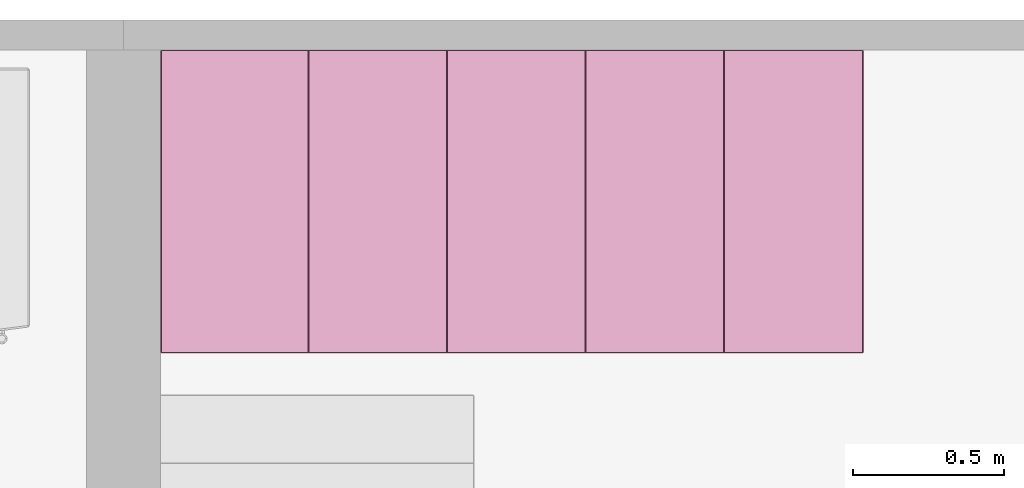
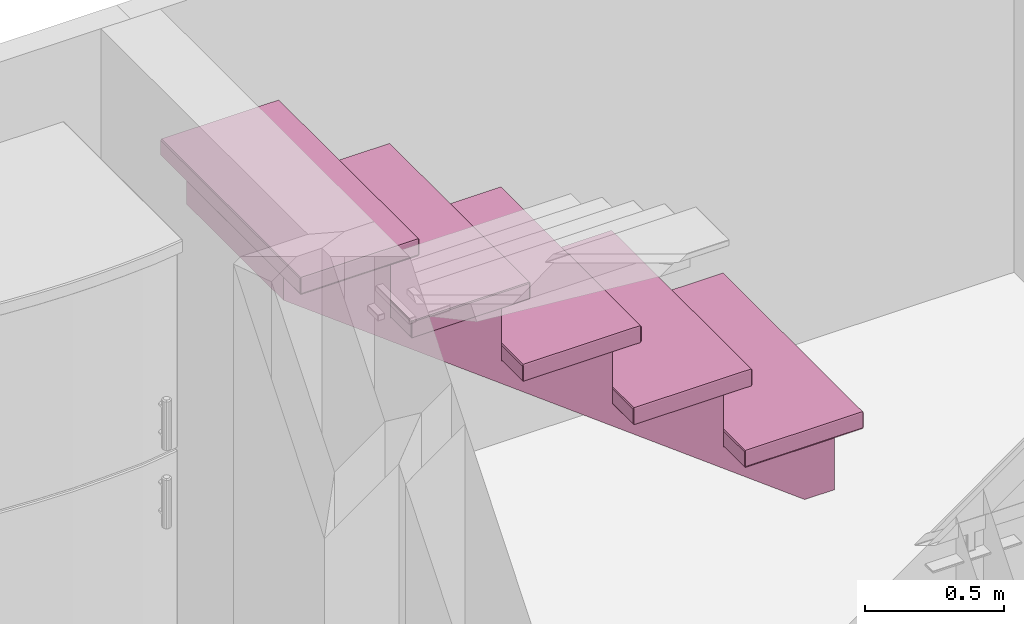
# One storey, part 7 of 8: 1 furniture element.
"""IFC4 building model written with IfcOpenShell, lengths in metres."""

from ifc_helpers import new_model, si_unit, direction, frame, origin_with_axes, place, context, project, spatial, polygons, type_object, element, save


model = new_model("IFC4")

# Units and contexts
model_context = context("Model", 3, precision=1e-05, world=origin_with_axes(), true_north=direction((-0.077, 0.997, 0.0)))
ifc_project = project(units=[si_unit("AREAUNIT", "SQUARE_METRE"), si_unit("LENGTHUNIT", "METRE")], contexts=[model_context])

# Site, building, storey, space
site_placement = place(None, origin_with_axes())
site = spatial("IfcSite", under=ifc_project, at=site_placement, Name="Site", CompositionType="ELEMENT")
building_placement = place(site_placement, origin_with_axes())
building = spatial("IfcBuilding", under=site, at=building_placement, Name="Building", CompositionType="ELEMENT")
storey_placement = place(building_placement, frame((0.0, 0.0, 0.0500000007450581), z_axis=(0.0, 0.0, 1.0), x_axis=(1.0, 0.0, 0.0)))
storey = spatial("IfcBuildingStorey", under=building, at=storey_placement, Name="Story 0", CompositionType="ELEMENT", Elevation=0.0500000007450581)
space_placement = place(storey_placement, frame((1.57275010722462, 0.239487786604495, 0.0), z_axis=(0.0, 0.0, 1.0), x_axis=(1.0, 0.0, 0.0)))
space = spatial("IfcSpace", under=storey, at=space_placement, Name="002", CompositionType="ELEMENT")

# Furniture
furniture_type = type_object("IfcFurnitureType", Name="e87a7f0f-9206-45dd-8d22-c4ba98a7309b", AssemblyPlace="NOTDEFINED", PredefinedType="USERDEFINED")
furniture_placement = place(space_placement, frame((1.16524194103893, 1.03045640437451, 0.910993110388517), z_axis=(0.0, 0.0, 1.00000000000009), x_axis=(1.00000011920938, 0.0, 0.0)))
element("IfcFurniture", 1, at=furniture_placement, inside=space, type_object=furniture_type, Name="STAIRS", ObjectType="STAIRS", PredefinedType="USERDEFINED", context=model_context, shape_type="Tessellation", body=[
    polygons([(1.1661, 0.5006, -0.4953), (1.1661, -0.5006, -0.4953), (1.1661, 0.5006, -0.5598), (1.1661, -0.5006, -0.5598), (1.1661, 0.5006, -0.5598), (1.1661, -0.5006, -0.4953), (1.1628, -0.5024, -0.4953), (0.6767, -0.5024, -0.4953), (1.1628, -0.5024, -0.5598), (0.6767, -0.5024, -0.5598), (1.1628, -0.5024, -0.5598), (0.6767, -0.5024, -0.4953), (0.6734, -0.5006, -0.4953), (0.6734, 0.5006, -0.4953), (0.6734, -0.5006, -0.5598), (0.6734, 0.5006, -0.5598), (0.6734, -0.5006, -0.5598), (0.6734, 0.5006, -0.4953), (0.6767, 0.5024, -0.4953), (1.1628, 0.5024, -0.4953), (0.6767, 0.5024, -0.5598), (1.1628, 0.5024, -0.5598), (0.6767, 0.5024, -0.5598), (1.1628, 0.5024, -0.4953), (1.1628, -0.5006, -0.5647), (0.6767, -0.5006, -0.5647), (1.1628, 0.5006, -0.5647), (0.6767, 0.5006, -0.5647), (1.1628, 0.5006, -0.5647), (0.6767, -0.5006, -0.5647), (1.1628, -0.5006, -0.4903), (1.1628, 0.5006, -0.4903), (0.6767, -0.5006, -0.4903), (0.6767, 0.5006, -0.4903), (0.6767, -0.5006, -0.4903), (1.1628, 0.5006, -0.4903), (1.1628, 0.5024, -0.5598), (1.1661, 0.5006, -0.5598), (1.1628, 0.5006, -0.5647), (1.1628, -0.5024, -0.5598), (1.1628, -0.5006, -0.5647), (1.1661, -0.5006, -0.5598), (0.6734, -0.5006, -0.5598), (0.6767, -0.5006, -0.5647), (0.6767, -0.5024, -0.5598), (0.6734, 0.5006, -0.5598), (0.6767, 0.5024, -0.5598), (0.6767, 0.5006, -0.5647), (1.1628, 0.5006, -0.4903), (1.1661, 0.5006, -0.4953), (1.1628, 0.5024, -0.4953), (1.1628, -0.5006, -0.4903), (1.1628, -0.5024, -0.4953), (1.1661, -0.5006, -0.4953), (0.6767, -0.5006, -0.4903), (0.6734, -0.5006, -0.4953), (0.6767, -0.5024, -0.4953), (0.6767, 0.5006, -0.4903), (0.6767, 0.5024, -0.4953), (0.6734, 0.5006, -0.4953), (1.1628, 0.5006, -0.5647), (1.1661, 0.5006, -0.5598), (1.1628, -0.5006, -0.5647), (1.1661, -0.5006, -0.5598), (1.1628, -0.5006, -0.5647), (1.1661, 0.5006, -0.5598), (1.1628, -0.5024, -0.5598), (1.1661, -0.5006, -0.5598), (1.1628, -0.5024, -0.4953), (1.1661, -0.5006, -0.4953), (1.1628, -0.5024, -0.4953), (1.1661, -0.5006, -0.5598), (1.1628, -0.5006, -0.4903), (1.1661, -0.5006, -0.4953), (1.1628, 0.5006, -0.4903), (1.1661, 0.5006, -0.4953), (1.1628, 0.5006, -0.4903), (1.1661, -0.5006, -0.4953), (1.1628, 0.5024, -0.4953), (1.1661, 0.5006, -0.4953), (1.1628, 0.5024, -0.5598), (1.1661, 0.5006, -0.5598), (1.1628, 0.5024, -0.5598), (1.1661, 0.5006, -0.4953), (1.1628, -0.5006, -0.5647), (1.1628, -0.5024, -0.5598), (0.6767, -0.5006, -0.5647), (0.6767, -0.5024, -0.5598), (0.6767, -0.5006, -0.5647), (1.1628, -0.5024, -0.5598), (0.6734, -0.5006, -0.5598), (0.6767, -0.5024, -0.5598), (0.6734, -0.5006, -0.4953), (0.6767, -0.5024, -0.4953), (0.6734, -0.5006, -0.4953), (0.6767, -0.5024, -0.5598), (0.6767, -0.5006, -0.4903), (0.6767, -0.5024, -0.4953), (1.1628, -0.5006, -0.4903), (1.1628, -0.5024, -0.4953), (1.1628, -0.5006, -0.4903), (0.6767, -0.5024, -0.4953), (0.6767, -0.5006, -0.5647), (0.6734, -0.5006, -0.5598), (0.6767, 0.5006, -0.5647), (0.6734, 0.5006, -0.5598), (0.6767, 0.5006, -0.5647), (0.6734, -0.5006, -0.5598), (0.6767, 0.5024, -0.5598), (0.6734, 0.5006, -0.5598), (0.6767, 0.5024, -0.4953), (0.6734, 0.5006, -0.4953), (0.6767, 0.5024, -0.4953), (0.6734, 0.5006, -0.5598), (0.6767, 0.5006, -0.4903), (0.6734, 0.5006, -0.4953), (0.6767, -0.5006, -0.4903), (0.6734, -0.5006, -0.4953), (0.6767, -0.5006, -0.4903), (0.6734, 0.5006, -0.4953), (0.6767, 0.5006, -0.5647), (0.6767, 0.5024, -0.5598), (1.1628, 0.5006, -0.5647), (1.1628, 0.5024, -0.5598), (1.1628, 0.5006, -0.5647), (0.6767, 0.5024, -0.5598), (1.1628, 0.5006, -0.4903), (1.1628, 0.5024, -0.4953), (0.6767, 0.5006, -0.4903), (0.6767, 0.5024, -0.4953), (0.6767, 0.5006, -0.4903), (1.1628, 0.5024, -0.4953), (0.705, 0.5006, -0.147), (0.705, -0.5006, -0.147), (0.705, 0.5006, -0.2114), (0.705, -0.5006, -0.2114), (0.705, 0.5006, -0.2114), (0.705, -0.5006, -0.147), (0.7018, -0.5024, -0.147), (0.2156, -0.5024, -0.147), (0.7018, -0.5024, -0.2114), (0.2156, -0.5024, -0.2114), (0.7018, -0.5024, -0.2114), (0.2156, -0.5024, -0.147), (0.2124, -0.5006, -0.147), (0.2124, 0.5006, -0.147), (0.2124, -0.5006, -0.2114), (0.2124, 0.5006, -0.2114), (0.2124, -0.5006, -0.2114), (0.2124, 0.5006, -0.147), (0.2156, 0.5024, -0.147), (0.7018, 0.5024, -0.147), (0.2156, 0.5024, -0.2114), (0.7018, 0.5024, -0.2114), (0.2156, 0.5024, -0.2114), (0.7018, 0.5024, -0.147), (0.7018, -0.5006, -0.2164), (0.2156, -0.5006, -0.2164), (0.7018, 0.5006, -0.2164), (0.2156, 0.5006, -0.2164), (0.7018, 0.5006, -0.2164), (0.2156, -0.5006, -0.2164), (0.7018, -0.5006, -0.142), (0.7018, 0.5006, -0.142), (0.2156, -0.5006, -0.142), (0.2156, 0.5006, -0.142), (0.2156, -0.5006, -0.142), (0.7018, 0.5006, -0.142), (0.7018, 0.5024, -0.2114), (0.705, 0.5006, -0.2114), (0.7018, 0.5006, -0.2164), (0.7018, -0.5024, -0.2114), (0.7018, -0.5006, -0.2164), (0.705, -0.5006, -0.2114), (0.2124, -0.5006, -0.2114), (0.2156, -0.5006, -0.2164), (0.2156, -0.5024, -0.2114), (0.2124, 0.5006, -0.2114), (0.2156, 0.5024, -0.2114), (0.2156, 0.5006, -0.2164), (0.7018, 0.5006, -0.142), (0.705, 0.5006, -0.147), (0.7018, 0.5024, -0.147), (0.7018, -0.5006, -0.142), (0.7018, -0.5024, -0.147), (0.705, -0.5006, -0.147), (0.2156, -0.5006, -0.142), (0.2124, -0.5006, -0.147), (0.2156, -0.5024, -0.147), (0.2156, 0.5006, -0.142), (0.2156, 0.5024, -0.147), (0.2124, 0.5006, -0.147), (0.7018, 0.5006, -0.2164), (0.705, 0.5006, -0.2114), (0.7018, -0.5006, -0.2164), (0.705, -0.5006, -0.2114), (0.7018, -0.5006, -0.2164), (0.705, 0.5006, -0.2114), (0.7018, -0.5024, -0.2114), (0.705, -0.5006, -0.2114), (0.7018, -0.5024, -0.147), (0.705, -0.5006, -0.147), (0.7018, -0.5024, -0.147), (0.705, -0.5006, -0.2114), (0.7018, -0.5006, -0.142), (0.705, -0.5006, -0.147), (0.7018, 0.5006, -0.142), (0.705, 0.5006, -0.147), (0.7018, 0.5006, -0.142), (0.705, -0.5006, -0.147), (0.7018, 0.5024, -0.147), (0.705, 0.5006, -0.147), (0.7018, 0.5024, -0.2114), (0.705, 0.5006, -0.2114), (0.7018, 0.5024, -0.2114), (0.705, 0.5006, -0.147), (0.7018, -0.5006, -0.2164), (0.7018, -0.5024, -0.2114), (0.2156, -0.5006, -0.2164), (0.2156, -0.5024, -0.2114), (0.2156, -0.5006, -0.2164), (0.7018, -0.5024, -0.2114), (0.2124, -0.5006, -0.2114), (0.2156, -0.5024, -0.2114), (0.2124, -0.5006, -0.147), (0.2156, -0.5024, -0.147), (0.2124, -0.5006, -0.147), (0.2156, -0.5024, -0.2114), (0.2156, -0.5006, -0.142), (0.2156, -0.5024, -0.147), (0.7018, -0.5006, -0.142), (0.7018, -0.5024, -0.147), (0.7018, -0.5006, -0.142), (0.2156, -0.5024, -0.147), (0.2156, -0.5006, -0.2164), (0.2124, -0.5006, -0.2114), (0.2156, 0.5006, -0.2164), (0.2124, 0.5006, -0.2114), (0.2156, 0.5006, -0.2164), (0.2124, -0.5006, -0.2114), (0.2156, 0.5024, -0.2114), (0.2124, 0.5006, -0.2114), (0.2156, 0.5024, -0.147), (0.2124, 0.5006, -0.147), (0.2156, 0.5024, -0.147), (0.2124, 0.5006, -0.2114), (0.2156, 0.5006, -0.142), (0.2124, 0.5006, -0.147), (0.2156, -0.5006, -0.142), (0.2124, -0.5006, -0.147), (0.2156, -0.5006, -0.142), (0.2124, 0.5006, -0.147), (0.2156, 0.5006, -0.2164), (0.2156, 0.5024, -0.2114), (0.7018, 0.5006, -0.2164), (0.7018, 0.5024, -0.2114), (0.7018, 0.5006, -0.2164), (0.2156, 0.5024, -0.2114), (0.7018, 0.5006, -0.142), (0.7018, 0.5024, -0.147), (0.2156, 0.5006, -0.142), (0.2156, 0.5024, -0.147), (0.2156, 0.5006, -0.142), (0.7018, 0.5024, -0.147), (0.2462, 0.5006, 0.2036), (0.2462, -0.5006, 0.2036), (0.2462, 0.5006, 0.1392), (0.2462, -0.5006, 0.1392), (0.2462, 0.5006, 0.1392), (0.2462, -0.5006, 0.2036), (0.243, -0.5024, 0.2036), (-0.2431, -0.5024, 0.2036), (0.243, -0.5024, 0.1392), (-0.2431, -0.5024, 0.1392), (0.243, -0.5024, 0.1392), (-0.2431, -0.5024, 0.2036), (-0.2464, -0.5006, 0.2036), (-0.2464, 0.5006, 0.2036), (-0.2464, -0.5006, 0.1392), (-0.2464, 0.5006, 0.1392), (-0.2464, -0.5006, 0.1392), (-0.2464, 0.5006, 0.2036), (-0.2431, 0.5024, 0.2036), (0.243, 0.5024, 0.2036), (-0.2431, 0.5024, 0.1392), (0.243, 0.5024, 0.1392), (-0.2431, 0.5024, 0.1392), (0.243, 0.5024, 0.2036), (0.243, -0.5006, 0.1342), (-0.2431, -0.5006, 0.1342), (0.243, 0.5006, 0.1342), (-0.2431, 0.5006, 0.1342), (0.243, 0.5006, 0.1342), (-0.2431, -0.5006, 0.1342), (0.243, -0.5006, 0.2086), (0.243, 0.5006, 0.2086), (-0.2431, -0.5006, 0.2086), (-0.2431, 0.5006, 0.2086), (-0.2431, -0.5006, 0.2086), (0.243, 0.5006, 0.2086), (0.243, 0.5024, 0.1392), (0.2462, 0.5006, 0.1392), (0.243, 0.5006, 0.1342), (0.243, -0.5024, 0.1392), (0.243, -0.5006, 0.1342), (0.2462, -0.5006, 0.1392), (-0.2464, -0.5006, 0.1392), (-0.2431, -0.5006, 0.1342), (-0.2431, -0.5024, 0.1392), (-0.2464, 0.5006, 0.1392), (-0.2431, 0.5024, 0.1392), (-0.2431, 0.5006, 0.1342), (0.243, 0.5006, 0.2086), (0.2462, 0.5006, 0.2036), (0.243, 0.5024, 0.2036), (0.243, -0.5006, 0.2086), (0.243, -0.5024, 0.2036), (0.2462, -0.5006, 0.2036), (-0.2431, -0.5006, 0.2086), (-0.2464, -0.5006, 0.2036), (-0.2431, -0.5024, 0.2036), (-0.2431, 0.5006, 0.2086), (-0.2431, 0.5024, 0.2036), (-0.2464, 0.5006, 0.2036), (0.243, 0.5006, 0.1342), (0.2462, 0.5006, 0.1392), (0.243, -0.5006, 0.1342), (0.2462, -0.5006, 0.1392), (0.243, -0.5006, 0.1342), (0.2462, 0.5006, 0.1392), (0.243, -0.5024, 0.1392), (0.2462, -0.5006, 0.1392), (0.243, -0.5024, 0.2036), (0.2462, -0.5006, 0.2036), (0.243, -0.5024, 0.2036), (0.2462, -0.5006, 0.1392), (0.243, -0.5006, 0.2086), (0.2462, -0.5006, 0.2036), (0.243, 0.5006, 0.2086), (0.2462, 0.5006, 0.2036), (0.243, 0.5006, 0.2086), (0.2462, -0.5006, 0.2036), (0.243, 0.5024, 0.2036), (0.2462, 0.5006, 0.2036), (0.243, 0.5024, 0.1392), (0.2462, 0.5006, 0.1392), (0.243, 0.5024, 0.1392), (0.2462, 0.5006, 0.2036), (0.243, -0.5006, 0.1342), (0.243, -0.5024, 0.1392), (-0.2431, -0.5006, 0.1342), (-0.2431, -0.5024, 0.1392), (-0.2431, -0.5006, 0.1342), (0.243, -0.5024, 0.1392), (-0.2464, -0.5006, 0.1392), (-0.2431, -0.5024, 0.1392), (-0.2464, -0.5006, 0.2036), (-0.2431, -0.5024, 0.2036), (-0.2464, -0.5006, 0.2036), (-0.2431, -0.5024, 0.1392), (-0.2431, -0.5006, 0.2086), (-0.2431, -0.5024, 0.2036), (0.243, -0.5006, 0.2086), (0.243, -0.5024, 0.2036), (0.243, -0.5006, 0.2086), (-0.2431, -0.5024, 0.2036), (-0.2431, -0.5006, 0.1342), (-0.2464, -0.5006, 0.1392), (-0.2431, 0.5006, 0.1342), (-0.2464, 0.5006, 0.1392), (-0.2431, 0.5006, 0.1342), (-0.2464, -0.5006, 0.1392), (-0.2431, 0.5024, 0.1392), (-0.2464, 0.5006, 0.1392), (-0.2431, 0.5024, 0.2036), (-0.2464, 0.5006, 0.2036), (-0.2431, 0.5024, 0.2036), (-0.2464, 0.5006, 0.1392), (-0.2431, 0.5006, 0.2086), (-0.2464, 0.5006, 0.2036), (-0.2431, -0.5006, 0.2086), (-0.2464, -0.5006, 0.2036), (-0.2431, -0.5006, 0.2086), (-0.2464, 0.5006, 0.2036), (-0.2431, 0.5006, 0.1342), (-0.2431, 0.5024, 0.1392), (0.243, 0.5006, 0.1342), (0.243, 0.5024, 0.1392), (0.243, 0.5006, 0.1342), (-0.2431, 0.5024, 0.1392), (0.243, 0.5006, 0.2086), (0.243, 0.5024, 0.2036), (-0.2431, 0.5006, 0.2086), (-0.2431, 0.5024, 0.2036), (-0.2431, 0.5006, 0.2086), (0.243, 0.5024, 0.2036), (-0.2144, 0.5006, 0.5554), (-0.2144, -0.5006, 0.5554), (-0.2144, 0.5006, 0.4909), (-0.2144, -0.5006, 0.4909), (-0.2144, 0.5006, 0.4909), (-0.2144, -0.5006, 0.5554), (-0.2177, -0.5024, 0.5554), (-0.7038, -0.5024, 0.5554), (-0.2177, -0.5024, 0.4909), (-0.7038, -0.5024, 0.4909), (-0.2177, -0.5024, 0.4909), (-0.7038, -0.5024, 0.5554), (-0.7071, -0.5006, 0.5554), (-0.7071, 0.5006, 0.5554), (-0.7071, -0.5006, 0.4909), (-0.7071, 0.5006, 0.4909), (-0.7071, -0.5006, 0.4909), (-0.7071, 0.5006, 0.5554), (-0.7038, 0.5024, 0.5554), (-0.2177, 0.5024, 0.5554), (-0.7038, 0.5024, 0.4909), (-0.2177, 0.5024, 0.4909), (-0.7038, 0.5024, 0.4909), (-0.2177, 0.5024, 0.5554), (-0.2177, -0.5006, 0.4859), (-0.7038, -0.5006, 0.4859), (-0.2177, 0.5006, 0.4859), (-0.7038, 0.5006, 0.4859), (-0.2177, 0.5006, 0.4859), (-0.7038, -0.5006, 0.4859), (-0.2177, -0.5006, 0.5603), (-0.2177, 0.5006, 0.5603), (-0.7038, -0.5006, 0.5603), (-0.7038, 0.5006, 0.5603), (-0.7038, -0.5006, 0.5603), (-0.2177, 0.5006, 0.5603), (-0.2177, 0.5024, 0.4909), (-0.2144, 0.5006, 0.4909), (-0.2177, 0.5006, 0.4859), (-0.2177, -0.5024, 0.4909), (-0.2177, -0.5006, 0.4859), (-0.2144, -0.5006, 0.4909), (-0.7071, -0.5006, 0.4909), (-0.7038, -0.5006, 0.4859), (-0.7038, -0.5024, 0.4909), (-0.7071, 0.5006, 0.4909), (-0.7038, 0.5024, 0.4909), (-0.7038, 0.5006, 0.4859), (-0.2177, 0.5006, 0.5603), (-0.2144, 0.5006, 0.5554), (-0.2177, 0.5024, 0.5554), (-0.2177, -0.5006, 0.5603), (-0.2177, -0.5024, 0.5554), (-0.2144, -0.5006, 0.5554), (-0.7038, -0.5006, 0.5603), (-0.7071, -0.5006, 0.5554), (-0.7038, -0.5024, 0.5554), (-0.7038, 0.5006, 0.5603), (-0.7038, 0.5024, 0.5554), (-0.7071, 0.5006, 0.5554), (-0.2177, 0.5006, 0.4859), (-0.2144, 0.5006, 0.4909), (-0.2177, -0.5006, 0.4859), (-0.2144, -0.5006, 0.4909), (-0.2177, -0.5006, 0.4859), (-0.2144, 0.5006, 0.4909), (-0.2177, -0.5024, 0.4909), (-0.2144, -0.5006, 0.4909), (-0.2177, -0.5024, 0.5554), (-0.2144, -0.5006, 0.5554), (-0.2177, -0.5024, 0.5554), (-0.2144, -0.5006, 0.4909), (-0.2177, -0.5006, 0.5603), (-0.2144, -0.5006, 0.5554), (-0.2177, 0.5006, 0.5603), (-0.2144, 0.5006, 0.5554), (-0.2177, 0.5006, 0.5603), (-0.2144, -0.5006, 0.5554), (-0.2177, 0.5024, 0.5554), (-0.2144, 0.5006, 0.5554), (-0.2177, 0.5024, 0.4909), (-0.2144, 0.5006, 0.4909), (-0.2177, 0.5024, 0.4909), (-0.2144, 0.5006, 0.5554), (-0.2177, -0.5006, 0.4859), (-0.2177, -0.5024, 0.4909), (-0.7038, -0.5006, 0.4859), (-0.7038, -0.5024, 0.4909), (-0.7038, -0.5006, 0.4859), (-0.2177, -0.5024, 0.4909), (-0.7071, -0.5006, 0.4909), (-0.7038, -0.5024, 0.4909), (-0.7071, -0.5006, 0.5554), (-0.7038, -0.5024, 0.5554), (-0.7071, -0.5006, 0.5554), (-0.7038, -0.5024, 0.4909), (-0.7038, -0.5006, 0.5603), (-0.7038, -0.5024, 0.5554), (-0.2177, -0.5006, 0.5603), (-0.2177, -0.5024, 0.5554), (-0.2177, -0.5006, 0.5603), (-0.7038, -0.5024, 0.5554), (-0.7038, -0.5006, 0.4859), (-0.7071, -0.5006, 0.4909), (-0.7038, 0.5006, 0.4859), (-0.7071, 0.5006, 0.4909), (-0.7038, 0.5006, 0.4859), (-0.7071, -0.5006, 0.4909), (-0.7038, 0.5024, 0.4909), (-0.7071, 0.5006, 0.4909), (-0.7038, 0.5024, 0.5554), (-0.7071, 0.5006, 0.5554), (-0.7038, 0.5024, 0.5554), (-0.7071, 0.5006, 0.4909), (-0.7038, 0.5006, 0.5603), (-0.7071, 0.5006, 0.5554), (-0.7038, -0.5006, 0.5603), (-0.7071, -0.5006, 0.5554), (-0.7038, -0.5006, 0.5603), (-0.7071, 0.5006, 0.5554), (-0.7038, 0.5006, 0.4859), (-0.7038, 0.5024, 0.4909), (-0.2177, 0.5006, 0.4859), (-0.2177, 0.5024, 0.4909), (-0.2177, 0.5006, 0.4859), (-0.7038, 0.5024, 0.4909), (-0.2177, 0.5006, 0.5603), (-0.2177, 0.5024, 0.5554), (-0.7038, 0.5006, 0.5603), (-0.7038, 0.5024, 0.5554), (-0.7038, 0.5006, 0.5603), (-0.2177, 0.5024, 0.5554), (-0.6734, 0.5006, 0.906), (-0.6734, -0.5006, 0.906), (-0.6734, 0.5006, 0.8415), (-0.6734, -0.5006, 0.8415), (-0.6734, 0.5006, 0.8415), (-0.6734, -0.5006, 0.906), (-0.6767, -0.5024, 0.906), (-1.1628, -0.5024, 0.906), (-0.6767, -0.5024, 0.8415), (-1.1628, -0.5024, 0.8415), (-0.6767, -0.5024, 0.8415), (-1.1628, -0.5024, 0.906), (-1.1661, -0.5006, 0.906), (-1.1661, 0.5006, 0.906), (-1.1661, -0.5006, 0.8415), (-1.1661, 0.5006, 0.8415), (-1.1661, -0.5006, 0.8415), (-1.1661, 0.5006, 0.906), (-1.1628, 0.5024, 0.906), (-0.6767, 0.5024, 0.906), (-1.1628, 0.5024, 0.8415), (-0.6767, 0.5024, 0.8415), (-1.1628, 0.5024, 0.8415), (-0.6767, 0.5024, 0.906), (-0.6767, -0.5006, 0.8366), (-1.1628, -0.5006, 0.8366), (-0.6767, 0.5006, 0.8366), (-1.1628, 0.5006, 0.8366), (-0.6767, 0.5006, 0.8366), (-1.1628, -0.5006, 0.8366), (-0.6767, -0.5006, 0.911), (-0.6767, 0.5006, 0.911), (-1.1628, -0.5006, 0.911), (-1.1628, 0.5006, 0.911), (-1.1628, -0.5006, 0.911), (-0.6767, 0.5006, 0.911), (-0.6767, 0.5024, 0.8415), (-0.6734, 0.5006, 0.8415), (-0.6767, 0.5006, 0.8366), (-0.6767, -0.5024, 0.8415), (-0.6767, -0.5006, 0.8366), (-0.6734, -0.5006, 0.8415), (-1.1661, -0.5006, 0.8415), (-1.1628, -0.5006, 0.8366), (-1.1628, -0.5024, 0.8415), (-1.1661, 0.5006, 0.8415), (-1.1628, 0.5024, 0.8415), (-1.1628, 0.5006, 0.8366), (-0.6767, 0.5006, 0.911), (-0.6734, 0.5006, 0.906), (-0.6767, 0.5024, 0.906), (-0.6767, -0.5006, 0.911), (-0.6767, -0.5024, 0.906), (-0.6734, -0.5006, 0.906), (-1.1628, -0.5006, 0.911), (-1.1661, -0.5006, 0.906), (-1.1628, -0.5024, 0.906), (-1.1628, 0.5006, 0.911), (-1.1628, 0.5024, 0.906), (-1.1661, 0.5006, 0.906), (-0.6767, 0.5006, 0.8366), (-0.6734, 0.5006, 0.8415), (-0.6767, -0.5006, 0.8366), (-0.6734, -0.5006, 0.8415), (-0.6767, -0.5006, 0.8366), (-0.6734, 0.5006, 0.8415), (-0.6767, -0.5024, 0.8415), (-0.6734, -0.5006, 0.8415), (-0.6767, -0.5024, 0.906), (-0.6734, -0.5006, 0.906), (-0.6767, -0.5024, 0.906), (-0.6734, -0.5006, 0.8415), (-0.6767, -0.5006, 0.911), (-0.6734, -0.5006, 0.906), (-0.6767, 0.5006, 0.911), (-0.6734, 0.5006, 0.906), (-0.6767, 0.5006, 0.911), (-0.6734, -0.5006, 0.906), (-0.6767, 0.5024, 0.906), (-0.6734, 0.5006, 0.906), (-0.6767, 0.5024, 0.8415), (-0.6734, 0.5006, 0.8415), (-0.6767, 0.5024, 0.8415), (-0.6734, 0.5006, 0.906), (-0.6767, -0.5006, 0.8366), (-0.6767, -0.5024, 0.8415), (-1.1628, -0.5006, 0.8366), (-1.1628, -0.5024, 0.8415), (-1.1628, -0.5006, 0.8366), (-0.6767, -0.5024, 0.8415), (-1.1661, -0.5006, 0.8415), (-1.1628, -0.5024, 0.8415), (-1.1661, -0.5006, 0.906), (-1.1628, -0.5024, 0.906), (-1.1661, -0.5006, 0.906), (-1.1628, -0.5024, 0.8415), (-1.1628, -0.5006, 0.911), (-1.1628, -0.5024, 0.906), (-0.6767, -0.5006, 0.911), (-0.6767, -0.5024, 0.906), (-0.6767, -0.5006, 0.911), (-1.1628, -0.5024, 0.906), (-1.1628, -0.5006, 0.8366), (-1.1661, -0.5006, 0.8415), (-1.1628, 0.5006, 0.8366), (-1.1661, 0.5006, 0.8415), (-1.1628, 0.5006, 0.8366), (-1.1661, -0.5006, 0.8415), (-1.1628, 0.5024, 0.8415), (-1.1661, 0.5006, 0.8415), (-1.1628, 0.5024, 0.906), (-1.1661, 0.5006, 0.906), (-1.1628, 0.5024, 0.906), (-1.1661, 0.5006, 0.8415), (-1.1628, 0.5006, 0.911), (-1.1661, 0.5006, 0.906), (-1.1628, -0.5006, 0.911), (-1.1661, -0.5006, 0.906), (-1.1628, -0.5006, 0.911), (-1.1661, 0.5006, 0.906), (-1.1628, 0.5006, 0.8366), (-1.1628, 0.5024, 0.8415), (-0.6767, 0.5006, 0.8366), (-0.6767, 0.5024, 0.8415), (-0.6767, 0.5006, 0.8366), (-1.1628, 0.5024, 0.8415), (-0.6767, 0.5006, 0.911), (-0.6767, 0.5024, 0.906), (-1.1628, 0.5006, 0.911), (-1.1628, 0.5024, 0.906), (-1.1628, 0.5006, 0.911), (-0.6767, 0.5024, 0.906), (1.1321, 0.2995, -0.5643), (1.1321, 0.2995, -0.911), (1.1321, 0.343, -0.5643), (1.1321, 0.343, -0.911), (1.1321, 0.343, -0.5643), (1.1321, 0.2995, -0.911), (0.6723, 0.2995, -0.5643), (1.1321, 0.2995, -0.5643), (0.6723, 0.343, -0.5643), (1.1321, 0.343, -0.5643), (0.6723, 0.343, -0.5643), (1.1321, 0.2995, -0.5643), (0.6723, 0.2995, -0.2146), (0.6723, 0.2995, -0.5643), (0.6723, 0.343, -0.2146), (0.6723, 0.343, -0.5643), (0.6723, 0.343, -0.2146), (0.6723, 0.2995, -0.5643), (0.2124, 0.2995, -0.2146), (0.6723, 0.2995, -0.2146), (0.2124, 0.343, -0.2146), (0.6723, 0.343, -0.2146), (0.2124, 0.343, -0.2146), (0.6723, 0.2995, -0.2146), (0.2124, 0.2995, 0.1351), (0.2124, 0.2995, -0.2146), (0.2124, 0.343, 0.1351), (0.2124, 0.343, -0.2146), (0.2124, 0.343, 0.1351), (0.2124, 0.2995, -0.2146), (-0.2474, 0.2995, 0.1351), (0.2124, 0.2995, 0.1351), (-0.2474, 0.343, 0.1351), (0.2124, 0.343, 0.1351), (-0.2474, 0.343, 0.1351), (0.2124, 0.2995, 0.1351), (-0.2474, 0.2995, 0.4848), (-0.2474, 0.2995, 0.1351), (-0.2474, 0.343, 0.4848), (-0.2474, 0.343, 0.1351), (-0.2474, 0.343, 0.4848), (-0.2474, 0.2995, 0.1351), (-0.7072, 0.2995, 0.4848), (-0.2474, 0.2995, 0.4848), (-0.7072, 0.343, 0.4848), (-0.2474, 0.343, 0.4848), (-0.7072, 0.343, 0.4848), (-0.2474, 0.2995, 0.4848), (-0.7072, 0.2995, 0.8345), (-0.7072, 0.2995, 0.4848), (-0.7072, 0.343, 0.8345), (-0.7072, 0.343, 0.4848), (-0.7072, 0.343, 0.8345), (-0.7072, 0.2995, 0.4848), (-1.1506, 0.2995, 0.8345), (-0.7072, 0.2995, 0.8345), (-1.1506, 0.343, 0.8345), (-0.7072, 0.343, 0.8345), (-1.1506, 0.343, 0.8345), (-0.7072, 0.2995, 0.8345), (1.1321, -0.3526, -0.5643), (1.1321, -0.3526, -0.911), (1.1321, -0.3091, -0.5643), (1.1321, -0.3091, -0.911), (1.1321, -0.3091, -0.5643), (1.1321, -0.3526, -0.911), (0.6723, -0.3526, -0.5643), (1.1321, -0.3526, -0.5643), (0.6723, -0.3091, -0.5643), (1.1321, -0.3091, -0.5643), (0.6723, -0.3091, -0.5643), (1.1321, -0.3526, -0.5643), (0.6723, -0.3526, -0.2146), (0.6723, -0.3526, -0.5643), (0.6723, -0.3091, -0.2146), (0.6723, -0.3091, -0.5643), (0.6723, -0.3091, -0.2146), (0.6723, -0.3526, -0.5643), (0.2124, -0.3526, -0.2146), (0.6723, -0.3526, -0.2146), (0.2124, -0.3091, -0.2146), (0.6723, -0.3091, -0.2146), (0.2124, -0.3091, -0.2146), (0.6723, -0.3526, -0.2146), (0.2124, -0.3526, 0.1351), (0.2124, -0.3526, -0.2146), (0.2124, -0.3091, 0.1351), (0.2124, -0.3091, -0.2146), (0.2124, -0.3091, 0.1351), (0.2124, -0.3526, -0.2146), (-0.2474, -0.3526, 0.1351), (0.2124, -0.3526, 0.1351), (-0.2474, -0.3091, 0.1351), (0.2124, -0.3091, 0.1351), (-0.2474, -0.3091, 0.1351), (0.2124, -0.3526, 0.1351), (-0.2474, -0.3526, 0.4848), (-0.2474, -0.3526, 0.1351), (-0.2474, -0.3091, 0.4848), (-0.2474, -0.3091, 0.1351), (-0.2474, -0.3091, 0.4848), (-0.2474, -0.3526, 0.1351), (-0.7072, -0.3526, 0.4848), (-0.2474, -0.3526, 0.4848), (-0.7072, -0.3091, 0.4848), (-0.2474, -0.3091, 0.4848), (-0.7072, -0.3091, 0.4848), (-0.2474, -0.3526, 0.4848), (-0.7072, -0.3526, 0.8345), (-0.7072, -0.3526, 0.4848), (-0.7072, -0.3091, 0.8345), (-0.7072, -0.3091, 0.4848), (-0.7072, -0.3091, 0.8345), (-0.7072, -0.3526, 0.4848), (-1.1506, -0.3526, 0.8345), (-0.7072, -0.3526, 0.8345), (-1.1506, -0.3091, 0.8345), (-0.7072, -0.3091, 0.8345), (-1.1506, -0.3091, 0.8345), (-0.7072, -0.3526, 0.8345), (1.0085, 0.343, -0.911), (1.0085, 0.2995, -0.911), (-1.1506, 0.343, 0.7175), (-1.1506, 0.2995, 0.7175), (-1.1506, 0.343, 0.7175), (1.0085, 0.2995, -0.911), (1.0085, -0.3091, -0.911), (1.0085, -0.3526, -0.911), (-1.1506, -0.3091, 0.7175), (-1.1506, -0.3526, 0.7175), (-1.1506, -0.3091, 0.7175), (1.0085, -0.3526, -0.911), (1.0085, 0.343, -0.911), (1.1321, 0.343, -0.911), (1.0085, 0.2995, -0.911), (1.1321, 0.2995, -0.911), (1.0085, 0.2995, -0.911), (1.1321, 0.343, -0.911), (-1.1506, 0.343, 0.7175), (-1.1506, 0.2995, 0.7175), (-1.1506, 0.343, 0.8345), (-1.1506, 0.2995, 0.8345), (-1.1506, 0.343, 0.8345), (-1.1506, 0.2995, 0.7175), (1.0085, -0.3526, -0.911), (1.0085, -0.3091, -0.911), (1.1321, -0.3526, -0.911), (1.1321, -0.3091, -0.911), (1.1321, -0.3526, -0.911), (1.0085, -0.3091, -0.911), (-1.1506, -0.3091, 0.7175), (-1.1506, -0.3526, 0.7175), (-1.1506, -0.3091, 0.8345), (-1.1506, -0.3526, 0.8345), (-1.1506, -0.3091, 0.8345), (-1.1506, -0.3526, 0.7175), (-0.7072, 0.2995, 0.8345), (-1.1506, 0.2995, 0.8345), (-0.7072, -0.3091, 0.8345), (-1.1506, -0.3091, 0.8345), (-0.7072, -0.3091, 0.8345), (-1.1506, 0.2995, 0.8345), (-0.7072, 0.2995, 0.4848), (-0.7072, 0.2995, 0.8345), (-0.7072, -0.3091, 0.4848), (-0.7072, -0.3091, 0.8345), (-0.7072, -0.3091, 0.4848), (-0.7072, 0.2995, 0.8345), (-0.2474, 0.2995, 0.4848), (-0.7072, 0.2995, 0.4848), (-0.2474, -0.3091, 0.4848), (-0.7072, -0.3091, 0.4848), (-0.2474, -0.3091, 0.4848), (-0.7072, 0.2995, 0.4848), (-0.2474, 0.2995, 0.1351), (-0.2474, 0.2995, 0.4848), (-0.2474, -0.3091, 0.1351), (-0.2474, -0.3091, 0.4848), (-0.2474, -0.3091, 0.1351), (-0.2474, 0.2995, 0.4848), (0.2124, 0.2995, 0.1351), (-0.2474, 0.2995, 0.1351), (0.2124, -0.3091, 0.1351), (-0.2474, -0.3091, 0.1351), (0.2124, -0.3091, 0.1351), (-0.2474, 0.2995, 0.1351), (0.2124, 0.2995, -0.2146), (0.2124, 0.2995, 0.1351), (0.2124, -0.3091, -0.2146), (0.2124, -0.3091, 0.1351), (0.2124, -0.3091, -0.2146), (0.2124, 0.2995, 0.1351), (0.6723, 0.2995, -0.2146), (0.2124, 0.2995, -0.2146), (0.6723, -0.3091, -0.2146), (0.2124, -0.3091, -0.2146), (0.6723, -0.3091, -0.2146), (0.2124, 0.2995, -0.2146), (0.6723, 0.2995, -0.5643), (0.6723, 0.2995, -0.2146), (0.6723, -0.3091, -0.5643), (0.6723, -0.3091, -0.2146), (0.6723, -0.3091, -0.5643), (0.6723, 0.2995, -0.2146), (1.1321, 0.2995, -0.5643), (0.6723, 0.2995, -0.5643), (1.1321, -0.3091, -0.5643), (0.6723, -0.3091, -0.5643), (1.1321, -0.3091, -0.5643), (0.6723, 0.2995, -0.5643), (1.1321, 0.2995, -0.911), (1.1321, 0.2995, -0.5643), (1.1321, -0.3091, -0.911), (1.1321, -0.3091, -0.5643), (1.1321, -0.3091, -0.911), (1.1321, 0.2995, -0.5643), (1.0085, -0.3091, -0.911), (1.0085, 0.2995, -0.911), (1.1321, -0.3091, -0.911), (1.1321, 0.2995, -0.911), (1.1321, -0.3091, -0.911), (1.0085, 0.2995, -0.911), (-1.1506, 0.2995, 0.7175), (1.0085, 0.2995, -0.911), (-1.1506, -0.3091, 0.7175), (1.0085, -0.3091, -0.911), (-1.1506, -0.3091, 0.7175), (1.0085, 0.2995, -0.911), (-1.1506, -0.3526, 0.8345), (-1.1506, -0.3526, 0.7175), (-0.7072, -0.3526, 0.8345), (-0.7072, -0.3526, 0.8345), (-1.1506, -0.3526, 0.7175), (-0.7072, -0.3526, 0.4848), (-0.2474, -0.3526, 0.4848), (-0.7072, -0.3526, 0.4848), (-0.2474, -0.3526, 0.1351), (-0.7072, -0.3526, 0.4848), (-1.1506, -0.3526, 0.7175), (-0.2474, -0.3526, 0.1351), (0.2124, -0.3526, 0.1351), (-0.2474, -0.3526, 0.1351), (0.2124, -0.3526, -0.2146), (0.6723, -0.3526, -0.2146), (0.2124, -0.3526, -0.2146), (0.6723, -0.3526, -0.5643), (0.2124, -0.3526, -0.2146), (-0.2474, -0.3526, 0.1351), (0.6723, -0.3526, -0.5643), (-0.2474, -0.3526, 0.1351), (-1.1506, -0.3526, 0.7175), (0.6723, -0.3526, -0.5643), (1.1321, -0.3526, -0.5643), (0.6723, -0.3526, -0.5643), (1.1321, -0.3526, -0.911), (0.6723, -0.3526, -0.5643), (-1.1506, -0.3526, 0.7175), (1.1321, -0.3526, -0.911), (1.1321, -0.3526, -0.911), (-1.1506, -0.3526, 0.7175), (1.0085, -0.3526, -0.911), (1.1321, 0.343, -0.911), (1.0085, 0.343, -0.911), (1.1321, 0.343, -0.5643), (1.1321, 0.343, -0.5643), (1.0085, 0.343, -0.911), (0.6723, 0.343, -0.5643), (0.6723, 0.343, -0.2146), (0.6723, 0.343, -0.5643), (0.2124, 0.343, -0.2146), (0.6723, 0.343, -0.5643), (1.0085, 0.343, -0.911), (0.2124, 0.343, -0.2146), (0.2124, 0.343, 0.1351), (0.2124, 0.343, -0.2146), (-0.2474, 0.343, 0.1351), (0.2124, 0.343, -0.2146), (1.0085, 0.343, -0.911), (-0.2474, 0.343, 0.1351), (-0.2474, 0.343, 0.4848), (-0.2474, 0.343, 0.1351), (-0.7072, 0.343, 0.4848), (-0.2474, 0.343, 0.1351), (1.0085, 0.343, -0.911), (-0.7072, 0.343, 0.4848), (-0.7072, 0.343, 0.8345), (-0.7072, 0.343, 0.4848), (-1.1506, 0.343, 0.8345), (-0.7072, 0.343, 0.4848), (1.0085, 0.343, -0.911), (-1.1506, 0.343, 0.8345), (-1.1506, 0.343, 0.8345), (1.0085, 0.343, -0.911), (-1.1506, 0.343, 0.7175), (-1.1506, -0.3091, 0.8345), (-1.1506, 0.2995, 0.8345), (-1.1506, -0.3091, 0.7175), (-1.1506, 0.2995, 0.7175), (-1.1506, -0.3091, 0.7175), (-1.1506, 0.2995, 0.8345)], [[[1, 2, 3]], [[4, 5, 6]], [[7, 8, 9]], [[10, 11, 12]], [[13, 14, 15]], [[16, 17, 18]], [[19, 20, 21]], [[22, 23, 24]], [[25, 26, 27]], [[28, 29, 30]], [[31, 32, 33]], [[34, 35, 36]], [[37, 38, 39]], [[40, 41, 42]], [[43, 44, 45]], [[46, 47, 48]], [[49, 50, 51]], [[52, 53, 54]], [[55, 56, 57]], [[58, 59, 60]], [[61, 62, 63]], [[64, 65, 66]], [[67, 68, 69]], [[70, 71, 72]], [[73, 74, 75]], [[76, 77, 78]], [[79, 80, 81]], [[82, 83, 84]], [[85, 86, 87]], [[88, 89, 90]], [[91, 92, 93]], [[94, 95, 96]], [[97, 98, 99]], [[100, 101, 102]], [[103, 104, 105]], [[106, 107, 108]], [[109, 110, 111]], [[112, 113, 114]], [[115, 116, 117]], [[118, 119, 120]], [[121, 122, 123]], [[124, 125, 126]], [[127, 128, 129]], [[130, 131, 132]], [[133, 134, 135]], [[136, 137, 138]], [[139, 140, 141]], [[142, 143, 144]], [[145, 146, 147]], [[148, 149, 150]], [[151, 152, 153]], [[154, 155, 156]], [[157, 158, 159]], [[160, 161, 162]], [[163, 164, 165]], [[166, 167, 168]], [[169, 170, 171]], [[172, 173, 174]], [[175, 176, 177]], [[178, 179, 180]], [[181, 182, 183]], [[184, 185, 186]], [[187, 188, 189]], [[190, 191, 192]], [[193, 194, 195]], [[196, 197, 198]], [[199, 200, 201]], [[202, 203, 204]], [[205, 206, 207]], [[208, 209, 210]], [[211, 212, 213]], [[214, 215, 216]], [[217, 218, 219]], [[220, 221, 222]], [[223, 224, 225]], [[226, 227, 228]], [[229, 230, 231]], [[232, 233, 234]], [[235, 236, 237]], [[238, 239, 240]], [[241, 242, 243]], [[244, 245, 246]], [[247, 248, 249]], [[250, 251, 252]], [[253, 254, 255]], [[256, 257, 258]], [[259, 260, 261]], [[262, 263, 264]], [[265, 266, 267]], [[268, 269, 270]], [[271, 272, 273]], [[274, 275, 276]], [[277, 278, 279]], [[280, 281, 282]], [[283, 284, 285]], [[286, 287, 288]], [[289, 290, 291]], [[292, 293, 294]], [[295, 296, 297]], [[298, 299, 300]], [[301, 302, 303]], [[304, 305, 306]], [[307, 308, 309]], [[310, 311, 312]], [[313, 314, 315]], [[316, 317, 318]], [[319, 320, 321]], [[322, 323, 324]], [[325, 326, 327]], [[328, 329, 330]], [[331, 332, 333]], [[334, 335, 336]], [[337, 338, 339]], [[340, 341, 342]], [[343, 344, 345]], [[346, 347, 348]], [[349, 350, 351]], [[352, 353, 354]], [[355, 356, 357]], [[358, 359, 360]], [[361, 362, 363]], [[364, 365, 366]], [[367, 368, 369]], [[370, 371, 372]], [[373, 374, 375]], [[376, 377, 378]], [[379, 380, 381]], [[382, 383, 384]], [[385, 386, 387]], [[388, 389, 390]], [[391, 392, 393]], [[394, 395, 396]], [[397, 398, 399]], [[400, 401, 402]], [[403, 404, 405]], [[406, 407, 408]], [[409, 410, 411]], [[412, 413, 414]], [[415, 416, 417]], [[418, 419, 420]], [[421, 422, 423]], [[424, 425, 426]], [[427, 428, 429]], [[430, 431, 432]], [[433, 434, 435]], [[436, 437, 438]], [[439, 440, 441]], [[442, 443, 444]], [[445, 446, 447]], [[448, 449, 450]], [[451, 452, 453]], [[454, 455, 456]], [[457, 458, 459]], [[460, 461, 462]], [[463, 464, 465]], [[466, 467, 468]], [[469, 470, 471]], [[472, 473, 474]], [[475, 476, 477]], [[478, 479, 480]], [[481, 482, 483]], [[484, 485, 486]], [[487, 488, 489]], [[490, 491, 492]], [[493, 494, 495]], [[496, 497, 498]], [[499, 500, 501]], [[502, 503, 504]], [[505, 506, 507]], [[508, 509, 510]], [[511, 512, 513]], [[514, 515, 516]], [[517, 518, 519]], [[520, 521, 522]], [[523, 524, 525]], [[526, 527, 528]], [[529, 530, 531]], [[532, 533, 534]], [[535, 536, 537]], [[538, 539, 540]], [[541, 542, 543]], [[544, 545, 546]], [[547, 548, 549]], [[550, 551, 552]], [[553, 554, 555]], [[556, 557, 558]], [[559, 560, 561]], [[562, 563, 564]], [[565, 566, 567]], [[568, 569, 570]], [[571, 572, 573]], [[574, 575, 576]], [[577, 578, 579]], [[580, 581, 582]], [[583, 584, 585]], [[586, 587, 588]], [[589, 590, 591]], [[592, 593, 594]], [[595, 596, 597]], [[598, 599, 600]], [[601, 602, 603]], [[604, 605, 606]], [[607, 608, 609]], [[610, 611, 612]], [[613, 614, 615]], [[616, 617, 618]], [[619, 620, 621]], [[622, 623, 624]], [[625, 626, 627]], [[628, 629, 630]], [[631, 632, 633]], [[634, 635, 636]], [[637, 638, 639]], [[640, 641, 642]], [[643, 644, 645]], [[646, 647, 648]], [[649, 650, 651]], [[652, 653, 654]], [[655, 656, 657]], [[658, 659, 660]], [[661, 662, 663]], [[664, 665, 666]], [[667, 668, 669]], [[670, 671, 672]], [[673, 674, 675]], [[676, 677, 678]], [[679, 680, 681]], [[682, 683, 684]], [[685, 686, 687]], [[688, 689, 690]], [[691, 692, 693]], [[694, 695, 696]], [[697, 698, 699]], [[700, 701, 702]], [[703, 704, 705]], [[706, 707, 708]], [[709, 710, 711]], [[712, 713, 714]], [[715, 716, 717]], [[718, 719, 720]], [[721, 722, 723]], [[724, 725, 726]], [[727, 728, 729]], [[730, 731, 732]], [[733, 734, 735]], [[736, 737, 738]], [[739, 740, 741]], [[742, 743, 744]], [[745, 746, 747]], [[748, 749, 750]], [[751, 752, 753]], [[754, 755, 756]], [[757, 758, 759]], [[760, 761, 762]], [[763, 764, 765]], [[766, 767, 768]], [[769, 770, 771]], [[772, 773, 774]], [[775, 776, 777]], [[778, 779, 780]], [[781, 782, 783]], [[784, 785, 786]], [[787, 788, 789]], [[790, 791, 792]], [[793, 794, 795]], [[796, 797, 798]], [[799, 800, 801]], [[802, 803, 804]], [[805, 806, 807]], [[808, 809, 810]], [[811, 812, 813]], [[814, 815, 816]], [[817, 818, 819]], [[820, 821, 822]], [[823, 824, 825]], [[826, 827, 828]], [[829, 830, 831]], [[832, 833, 834]], [[835, 836, 837]], [[838, 839, 840]], [[841, 842, 843]], [[844, 845, 846]], [[847, 848, 849]], [[850, 851, 852]], [[853, 854, 855]], [[856, 857, 858]], [[859, 860, 861]], [[862, 863, 864]], [[865, 866, 867]], [[868, 869, 870]], [[871, 872, 873]], [[874, 875, 876]], [[877, 878, 879]], [[880, 881, 882]], [[883, 884, 885]], [[886, 887, 888]], [[889, 890, 891]], [[892, 893, 894]], [[895, 896, 897]], [[898, 899, 900]], [[901, 902, 903]], [[904, 905, 906]], [[907, 908, 909]], [[910, 911, 912]], [[913, 914, 915]], [[916, 917, 918]], [[919, 920, 921]], [[922, 923, 924]], [[925, 926, 927]], [[928, 929, 930]], [[931, 932, 933]], [[934, 935, 936]], [[937, 938, 939]], [[940, 941, 942]], [[943, 944, 945]], [[946, 947, 948]], [[949, 950, 951]], [[952, 953, 954]], [[955, 956, 957]], [[958, 959, 960]]]),
])

save(model, "model.ifc")
